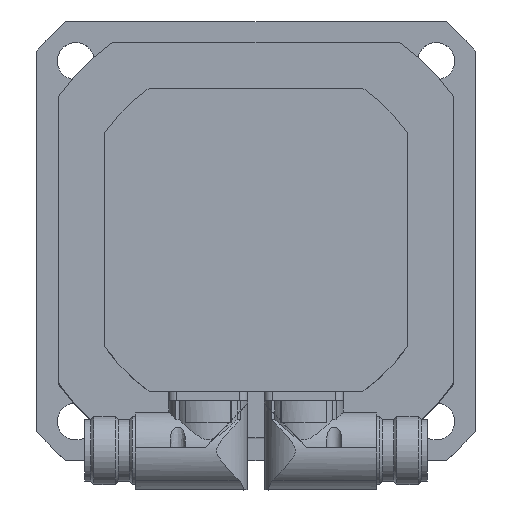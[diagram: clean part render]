
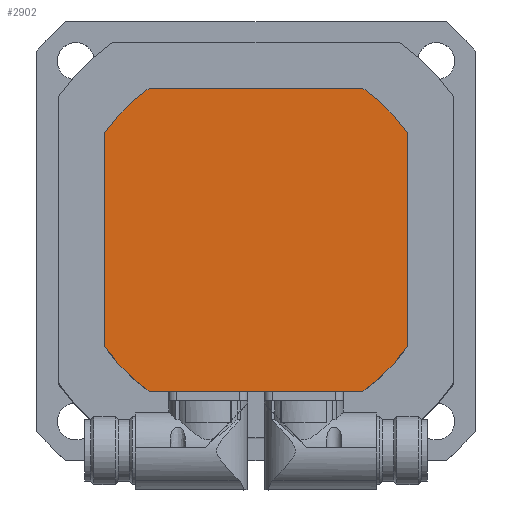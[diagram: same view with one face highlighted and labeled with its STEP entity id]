
A CAD part, top view. The second image highlights one B-rep face of the part: STEP entity #2902.
In plain terms, the highlighted planar face has unit normal (0, 0, 1).
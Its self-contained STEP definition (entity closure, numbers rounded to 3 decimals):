
#313=CIRCLE('',#3106,60.);
#314=CIRCLE('',#3108,60.);
#315=CIRCLE('',#3110,60.);
#316=CIRCLE('',#3112,60.);
#526=VERTEX_POINT('',#4868);
#527=VERTEX_POINT('',#4870);
#530=VERTEX_POINT('',#4879);
#531=VERTEX_POINT('',#4881);
#547=VERTEX_POINT('',#4972);
#548=VERTEX_POINT('',#4974);
#549=VERTEX_POINT('',#4978);
#550=VERTEX_POINT('',#4980);
#819=VECTOR('',#3604,1.);
#825=VECTOR('',#3611,1.);
#838=VECTOR('',#3657,1.);
#841=VECTOR('',#3661,1.);
#1050=LINE('',#4869,#819);
#1056=LINE('',#4880,#825);
#1069=LINE('',#4973,#838);
#1072=LINE('',#4979,#841);
#1335=EDGE_CURVE('',#527,#526,#1050,.T.);
#1341=EDGE_CURVE('',#531,#530,#1056,.T.);
#1366=EDGE_CURVE('',#548,#547,#1069,.T.);
#1369=EDGE_CURVE('',#550,#549,#1072,.T.);
#1371=EDGE_CURVE('',#531,#549,#313,.T.);
#1372=EDGE_CURVE('',#548,#530,#314,.T.);
#1373=EDGE_CURVE('',#527,#547,#315,.T.);
#1374=EDGE_CURVE('',#550,#526,#316,.T.);
#2019=ORIENTED_EDGE('',*,*,#1335,.T.);
#2020=ORIENTED_EDGE('',*,*,#1374,.F.);
#2021=ORIENTED_EDGE('',*,*,#1369,.T.);
#2022=ORIENTED_EDGE('',*,*,#1371,.F.);
#2023=ORIENTED_EDGE('',*,*,#1341,.T.);
#2024=ORIENTED_EDGE('',*,*,#1372,.F.);
#2025=ORIENTED_EDGE('',*,*,#1366,.T.);
#2026=ORIENTED_EDGE('',*,*,#1373,.F.);
#2502=EDGE_LOOP('',(#2019,#2020,#2021,#2022,#2023,#2024,#2025,#2026));
#2716=FACE_BOUND('',#2502,.T.);
#2902=ADVANCED_FACE('',(#2716),#5847,.F.);
#3106=AXIS2_PLACEMENT_3D('',#4983,#3665,#3666);
#3108=AXIS2_PLACEMENT_3D('',#4985,#3669,#3670);
#3110=AXIS2_PLACEMENT_3D('',#4987,#3673,#3674);
#3112=AXIS2_PLACEMENT_3D('',#4989,#3677,#3678);
#3113=AXIS2_PLACEMENT_3D('',#4990,#3679,$);
#3604=DIRECTION('',(0.,-1.,0.));
#3611=DIRECTION('',(0.,1.,0.));
#3657=DIRECTION('',(-1.,0.,0.));
#3661=DIRECTION('',(1.,0.,0.));
#3665=DIRECTION('',(0.,0.,-1.));
#3666=DIRECTION('',(-60.,0.,0.));
#3669=DIRECTION('',(0.,0.,-1.));
#3670=DIRECTION('',(-60.,0.,0.));
#3673=DIRECTION('',(0.,0.,-1.));
#3674=DIRECTION('',(-60.,0.,0.));
#3677=DIRECTION('',(0.,0.,-1.));
#3678=DIRECTION('',(-60.,0.,0.));
#3679=DIRECTION('',(0.,0.,-1.));
#4868=CARTESIAN_POINT('',(-49.,-34.627,45.));
#4869=CARTESIAN_POINT('',(-49.,34.627,45.));
#4870=CARTESIAN_POINT('',(-49.,34.627,45.));
#4879=CARTESIAN_POINT('',(49.,34.627,45.));
#4880=CARTESIAN_POINT('',(49.,-34.627,45.));
#4881=CARTESIAN_POINT('',(49.,-34.627,45.));
#4972=CARTESIAN_POINT('',(-34.627,49.,45.));
#4973=CARTESIAN_POINT('',(34.627,49.,45.));
#4974=CARTESIAN_POINT('',(34.627,49.,45.));
#4978=CARTESIAN_POINT('',(34.627,-49.,45.));
#4979=CARTESIAN_POINT('',(-34.627,-49.,45.));
#4980=CARTESIAN_POINT('',(-34.627,-49.,45.));
#4983=CARTESIAN_POINT('',(0.,0.,45.));
#4985=CARTESIAN_POINT('',(0.,0.,45.));
#4987=CARTESIAN_POINT('',(0.,0.,45.));
#4989=CARTESIAN_POINT('',(0.,0.,45.));
#4990=CARTESIAN_POINT('',(0.,0.,45.));
#5847=PLANE('',#3113);
